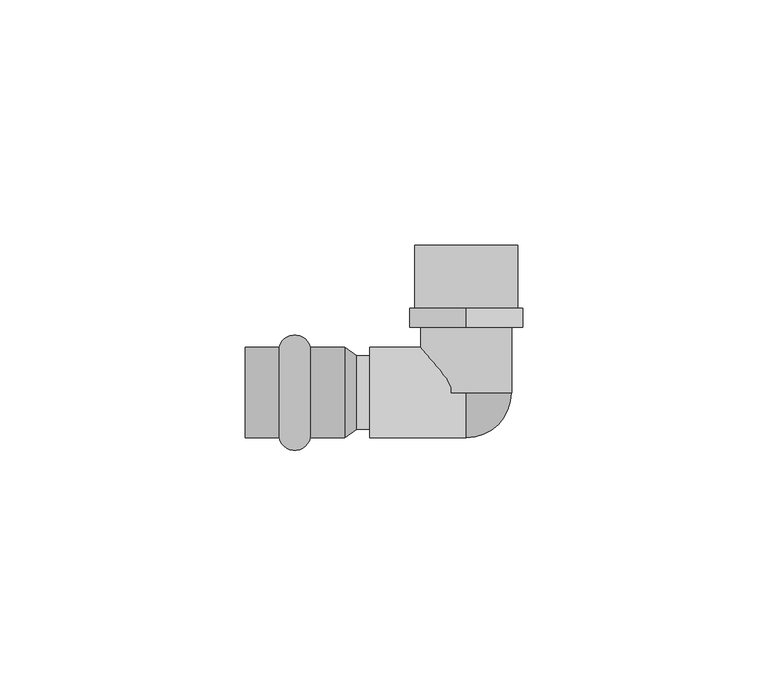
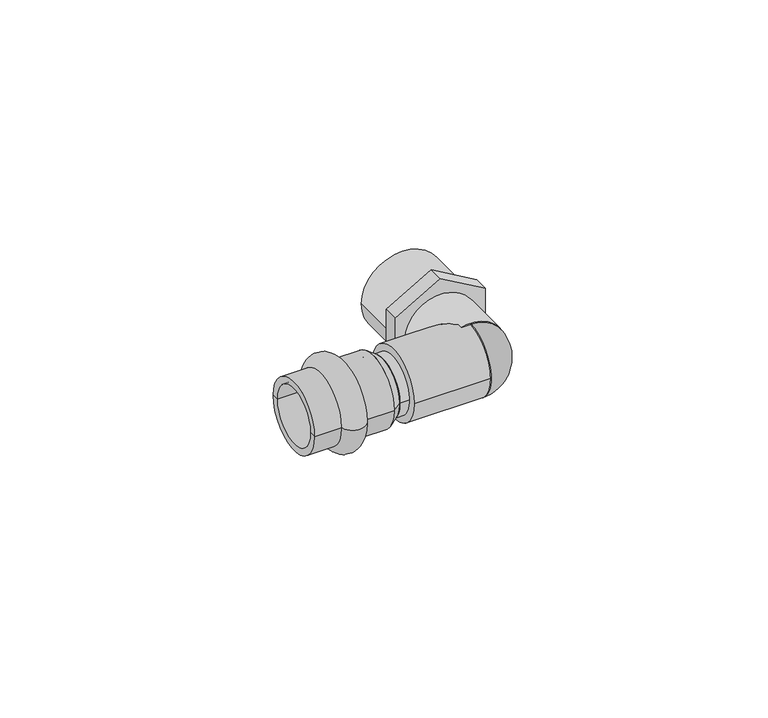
"""IFC4 building model written with IfcOpenShell, lengths in millimetres: pipe fitting geometry, VALTEC_VTi.953.I_Угольник с переходом на наружную резьбу нержавеющая сталь : VTi.953.I."""

from ifc_helpers import new_model, si_unit, point, frame, origin, origin_2d, place, context, project, spatial, polyline, circle_curve, ellipse_curve, trimmed, segment, composite_curve, outline, extrude, source, transform, mapped, element, save
from ifc_brep_helpers import plane_surface, cylinder_surface, revolved_surface, advanced_brep


def pipe_fitting_f36aca4a(model_context):
    return source(origin(), model_context, "Body", "SolidModel", [
        advanced_brep(
        [(-38.1122777, -9.25, 0.0), (-38.1122777, 9.25, 0.0), (-31.7877223, 9.25, 0.0), (-31.7877223, -9.25, 0.0), (-45.0, -9.25, 0.0), (-45.0, 9.25, 0.0), (-45.0, -7.5, 0.0), (-45.0, 7.5, 0.0), (-24.75, -7.5, 0.0), (-24.75, 7.5, 0.0), (-24.75, -9.25, 0.0), (-24.75, 9.25, 0.0)],
        [
            (0, 1, circle_curve(frame((-38.1122777, 0.0, 0.0), z_axis=(1.0, 0.0, 0.0), x_axis=(0.0, 1.0, 0.0)), 9.25)),
            (1, 2, circle_curve(frame((-34.95, 8.5, 0.0), z_axis=(0.0, 0.0, -1.0), x_axis=(1.0, 0.0, 0.0)), 3.25)),
            (2, 3, circle_curve(frame((-31.7877223, 0.0, 0.0), z_axis=(-1.0, 0.0, 0.0), x_axis=(0.0, 1.0, 0.0)), 9.25)),
            (3, 0, circle_curve(frame((-34.95, -8.5, 0.0), z_axis=(0.0, 0.0, -1.0), x_axis=(1.0, 0.0, 0.0)), 3.25)),
            (1, 0, circle_curve(frame((-38.1122777, 0.0, 0.0), z_axis=(1.0, 0.0, 0.0), x_axis=(0.0, 1.0, 0.0)), 9.25)),
            (3, 2, circle_curve(frame((-31.7877223, 0.0, 0.0), z_axis=(-1.0, 0.0, 0.0), x_axis=(0.0, 1.0, 0.0)), 9.25)),
            (4, 5, circle_curve(frame((-45.0, 0.0, 0.0), z_axis=(1.0, 0.0, 0.0), x_axis=(0.0, 1.0, 0.0)), 9.25)),
            (5, 1),
            (0, 4),
            (5, 4, circle_curve(frame((-45.0, 0.0, 0.0), z_axis=(1.0, 0.0, 0.0), x_axis=(0.0, 1.0, 0.0)), 9.25)),
            (6, 7, circle_curve(frame((-45.0, 0.0, 0.0), z_axis=(1.0, 0.0, 0.0), x_axis=(0.0, 1.0, 0.0)), 7.5)),
            (7, 5),
            (4, 6),
            (7, 6, circle_curve(frame((-45.0, 0.0, 0.0), z_axis=(1.0, 0.0, 0.0), x_axis=(0.0, 1.0, 0.0)), 7.5)),
            (8, 9, circle_curve(frame((-24.75, 0.0, 0.0), z_axis=(1.0, 0.0, 0.0), x_axis=(0.0, 1.0, 0.0)), 7.5)),
            (9, 7),
            (6, 8),
            (9, 8, circle_curve(frame((-24.75, 0.0, 0.0), z_axis=(1.0, 0.0, 0.0), x_axis=(0.0, 1.0, 0.0)), 7.5)),
            (10, 11, circle_curve(frame((-24.75, 0.0, 0.0), z_axis=(1.0, 0.0, 0.0), x_axis=(0.0, 1.0, 0.0)), 9.25)),
            (11, 9),
            (8, 10),
            (11, 10, circle_curve(frame((-24.75, 0.0, 0.0), z_axis=(1.0, 0.0, 0.0), x_axis=(0.0, 1.0, 0.0)), 9.25)),
            (2, 11),
            (10, 3),
        ],
        [
            revolved_surface(trimmed(ellipse_curve(frame((-34.95, 8.5, 0.0), z_axis=(0.0, 0.0, 1.0), x_axis=(1.0, 0.0, 0.0)), 3.25, 3.25), [point((-31.7877223, 9.25, 0.0))], [point((-38.1122777, 9.25, 0.0))], True, "CARTESIAN"), (-48.5364426, 0.0, 0.0), (-1.0, 0.0, 0.0)),
            cylinder_surface(frame((-48.5364426, 0.0, 0.0), z_axis=(-1.0, 0.0, 0.0), x_axis=(0.0, 1.0, 0.0)), 9.25),
            plane_surface(frame((-45.0, 0.0, 0.0), z_axis=(-1.0, 0.0, 0.0), x_axis=(0.0, 1.0, 0.0))),
            revolved_surface(polyline([(-45.0, 7.5, 0.0), (-24.75, 7.5, 0.0)]), (-48.5364426, 0.0, 0.0), (-1.0, 0.0, 0.0)),
            plane_surface(frame((-24.75, 0.0, 0.0), z_axis=(1.0, 0.0, 0.0), x_axis=(0.0, 1.0, 0.0))),
        ],
        [
            (0, [[1, 2, 3, 4]]),
            (0, [[5, -4, 6, -2]]),
            (1, [[7, 8, -1, 9]]),
            (1, [[10, -9, -5, -8]]),
            (2, [[11, 12, -7, 13]]),
            (2, [[14, -13, -10, -12]]),
            (3, [[15, 16, -11, 17]]),
            (3, [[18, -17, -14, -16]]),
            (4, [[19, 20, -15, 21]]),
            (4, [[22, -21, -18, -20]]),
            (1, [[-3, 23, -19, 24]]),
            (1, [[-6, -24, -22, -23]]),
        ],
    ),
        extrude(outline(composite_curve([segment(trimmed(circle_curve(origin_2d(), 10.5), [point((0.0, -10.5))], [point((0.0, 10.5))], False, "CARTESIAN"), True, "CONTINUOUS"), segment(trimmed(circle_curve(origin_2d(), 10.5), [point((0.0, 10.5))], [point((0.0, -10.5))], False, "CARTESIAN"), True, "CONTINUOUS")], self_intersect=False), holes=[composite_curve([segment(trimmed(circle_curve(origin_2d(), 9.0), [point((0.0, -9.0))], [point((0.0, 9.0))], True, "CARTESIAN"), True, "CONTINUOUS"), segment(trimmed(circle_curve(origin_2d(), 9.0), [point((0.0, 9.0))], [point((0.0, -9.0))], True, "CARTESIAN"), True, "CONTINUOUS")], self_intersect=False)]), frame((0.0, 17.1428571, 0.0), z_axis=(0.0, 1.0, 0.0), x_axis=(0.0, 0.0, 1.0)), (0.0, 0.0, 1.0), 12.8571429),
        extrude(outline(polyline([(13.2790562, 0.0), (6.6395281, -11.5), (-6.6395281, -11.5), (-13.2790562, 0.0), (-6.6395281, 11.5), (6.6395281, 11.5), (13.2790562, 0.0)]), holes=[composite_curve([segment(trimmed(circle_curve(origin_2d(), 9.0), [point((0.0, -9.0))], [point((0.0, 9.0))], True, "CARTESIAN"), True, "CONTINUOUS"), segment(trimmed(circle_curve(origin_2d(), 9.0), [point((0.0, 9.0))], [point((0.0, -9.0))], True, "CARTESIAN"), True, "CONTINUOUS")], self_intersect=False)]), frame((0.0, 13.2857143, 0.0), z_axis=(0.0, 1.0, 0.0), x_axis=(0.0, 0.0, 1.0)), (0.0, 0.0, 1.0), 3.8571429),
        extrude(outline(composite_curve([segment(trimmed(circle_curve(origin_2d(), 9.25), [point((0.0, -9.25))], [point((0.0, 9.25))], False, "CARTESIAN"), True, "CONTINUOUS"), segment(trimmed(circle_curve(origin_2d(), 9.25), [point((0.0, 9.25))], [point((0.0, -9.25))], False, "CARTESIAN"), True, "CONTINUOUS")], self_intersect=False)), frame((0.0, 0.0, 0.0), z_axis=(0.0, 1.0, 0.0), x_axis=(0.0, 0.0, 1.0)), (0.0, 0.0, 1.0), 13.2857143),
        advanced_brep(
        [(0.0, 0.0, -9.25), (0.0, 0.0, 9.25)],
        [
            (0, 1, circle_curve(frame((0.0, 0.0, 0.0), z_axis=(-1.0, 0.0, 0.0), x_axis=(0.0, -1.0, 0.0)), 9.25)),
            (1, 0),
            (1, 0, circle_curve(frame((0.0, 0.0, 0.0), z_axis=(0.0, 1.0, 0.0), x_axis=(1.0, 0.0, 0.0)), 9.25)),
        ],
        [
            plane_surface(frame((0.0, 0.0, 16.2586047), z_axis=(-1.0, 0.0, 0.0), x_axis=(0.0, -1.0, 0.0))),
            plane_surface(frame((0.0, 0.0, 16.2586047), z_axis=(0.0, 1.0, 0.0), x_axis=(1.0, 0.0, 0.0))),
            revolved_surface(trimmed(ellipse_curve(frame((0.0, 0.0, 0.0), z_axis=(-1.0, 0.0, 0.0), x_axis=(0.0, -1.0, 0.0)), 9.25, 9.25), [point((0.0, 0.0, -9.25))], [point((0.0, 0.0, 9.25))], True, "CARTESIAN"), (0.0, 0.0, 16.2586047), (0.0, 0.0, 1.0)),
        ],
        [
            (0, [[1, 2]]),
            (1, [[3, -2]]),
            (2, [[-1, -3]]),
        ],
    ),
        extrude(outline(composite_curve([segment(trimmed(circle_curve(origin_2d(), 9.25), [point((-9.25, 0.0))], [point((9.25, 0.0))], False, "CARTESIAN"), True, "CONTINUOUS"), segment(trimmed(circle_curve(origin_2d(), 9.25), [point((9.25, 0.0))], [point((-9.25, 0.0))], False, "CARTESIAN"), True, "CONTINUOUS")], self_intersect=False)), frame((-19.6390217, 0.0, 0.0), z_axis=(1.0, 0.0, 0.0), x_axis=(0.0, 1.0, 0.0)), (0.0, 0.0, 1.0), 19.6390217),
        extrude(outline(composite_curve([segment(trimmed(circle_curve(origin_2d(), 7.5), [point((-7.5, 0.0))], [point((7.5, 0.0))], False, "CARTESIAN"), True, "CONTINUOUS"), segment(trimmed(circle_curve(origin_2d(), 7.5), [point((7.5, 0.0))], [point((-7.5, 0.0))], False, "CARTESIAN"), True, "CONTINUOUS")], self_intersect=False)), frame((-22.275, 0.0, 0.0), z_axis=(1.0, 0.0, 0.0), x_axis=(0.0, 1.0, 0.0)), (0.0, 0.0, 1.0), 2.6359783),
        advanced_brep(
        [(-24.75, -9.25, 0.0), (-24.75, 9.25, 0.0), (-22.275, -7.5, 0.0), (-22.275, 7.5, 0.0)],
        [
            (0, 1, circle_curve(frame((-24.75, 0.0, 0.0), z_axis=(-1.0, 0.0, 0.0), x_axis=(0.0, -1.0, 0.0)), 9.25)),
            (1, 0, circle_curve(frame((-24.75, 0.0, 0.0), z_axis=(-1.0, 0.0, 0.0), x_axis=(0.0, 1.0, 0.0)), 9.25)),
            (2, 3, circle_curve(frame((-22.275, 0.0, 0.0), z_axis=(1.0, 0.0, 0.0), x_axis=(0.0, 1.0, 0.0)), 7.5)),
            (3, 2, circle_curve(frame((-22.275, 0.0, 0.0), z_axis=(1.0, 0.0, 0.0), x_axis=(0.0, -1.0, 0.0)), 7.5)),
            (2, 0),
            (1, 3),
        ],
        [
            plane_surface(frame((-24.75, 0.0, 0.0), z_axis=(-1.0, 0.0, 0.0), x_axis=(0.0, 0.0, -1.0))),
            plane_surface(frame((-22.275, 0.0, 0.0), z_axis=(1.0, 0.0, 0.0), x_axis=(0.0, 0.0, -1.0))),
            revolved_surface(polyline([(-22.275, -7.500000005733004, 0.0), (-24.75, -9.25, 0.0)]), (-11.6678571, 0.0, 0.0), (-1.0, 0.0, 0.0)),
            revolved_surface(polyline([(-22.275, 7.500000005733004, 0.0), (-24.75, 9.25, 0.0)]), (-11.6678571, 0.0, 0.0), (-1.0, 0.0, 0.0)),
        ],
        [
            (0, [[1, 2]]),
            (1, [[3, 4]]),
            (2, [[-3, 5, -2, 6]]),
            (3, [[-4, -6, -1, -5]]),
        ],
    ),
    ])


if __name__ == "__main__":
    model = new_model("IFC4")
    model_context = context("Model", 3, world=origin())
    ifc_project = project(units=[si_unit("LENGTHUNIT", "METRE", prefix="MILLI")], contexts=[model_context])
    site = spatial("IfcSite", under=ifc_project)
    building = spatial("IfcBuilding", under=site)
    placement = place(None, origin())
    pipe_fitting_shape = pipe_fitting_f36aca4a(model_context)
    element("IfcPipeFitting", 1, ObjectType="VALTEC_VTi.953.I_Угольник с переходом на наружную резьбу нержавеющая сталь : VTi.953.I", at=placement, inside=building, context=model_context, shape_type="MappedRepresentation", body=[
        mapped(pipe_fitting_shape, transform((0.0, 0.0, 0.0), x_axis=(1.0, 0.0, 0.0), y_axis=(0.0, 1.0, 0.0), z_axis=(0.0, 0.0, 1.0))),
    ])
    save(model, "model.ifc")
